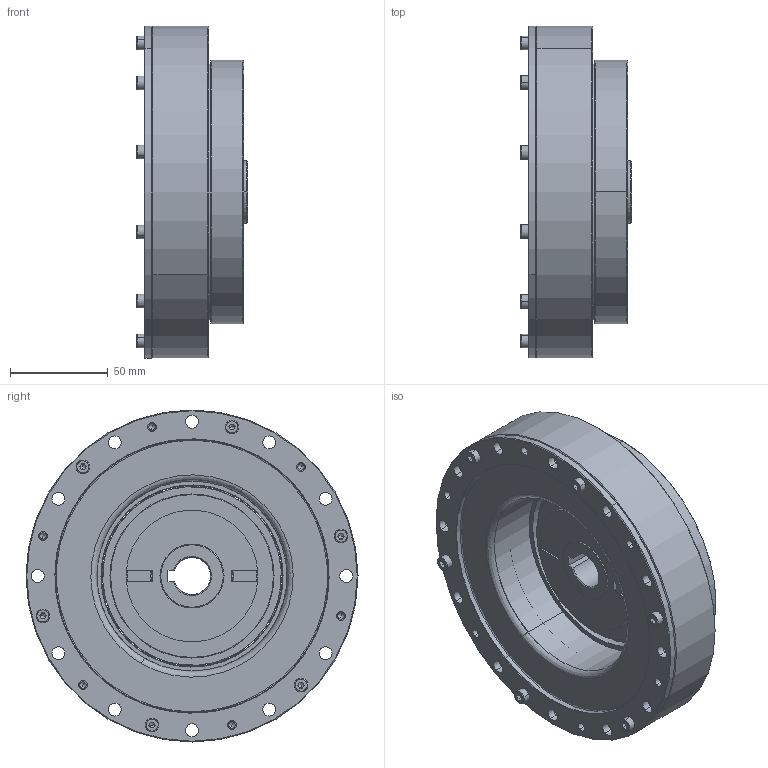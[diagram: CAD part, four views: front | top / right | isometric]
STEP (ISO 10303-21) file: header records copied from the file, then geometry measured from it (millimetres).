
FILE_DESCRIPTION (( 'STEP AP203' ), '1' );
FILE_NAME ('LHSG-40-XXX-C-II-S0.step', '2025-01-07T07:27:00', ( '' ), ( '' ), 'SwSTEP 2.0', 'SolidWorks 2023', '' );
FILE_SCHEMA (( 'CONFIG_CONTROL_DESIGN' ));
Length unit declared in the file: metre
Products named in the file (1): LHSG-40-XXX-C-II-S0
Bounding box: 57 x 170 x 170 mm (x, y, z)
Volume: 619352.5 mm3; surface area: 292184.4 mm2
Topology: 46 solids, 46 shells, 1009 faces, 2477 edges, 1463 vertices
Faces by surface type: cylinder 406, plane 288, cone 183, bspline 132
Entity records: 33211 total; most frequent: CARTESIAN_POINT 9772, DIRECTION 5204, ORIENTED_EDGE 4602, EDGE_CURVE 2301, AXIS2_PLACEMENT_3D 2123, VERTEX_POINT 1463, CIRCLE 1245, EDGE_LOOP 1236
